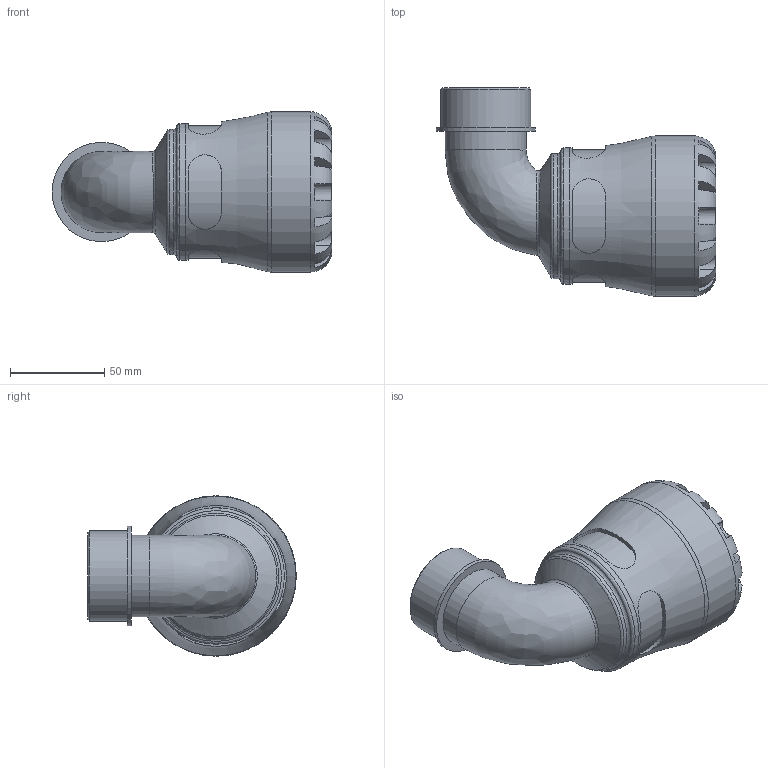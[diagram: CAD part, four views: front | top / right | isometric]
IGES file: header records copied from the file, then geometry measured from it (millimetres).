
Global section: file name: 108500050015_198500050015.ipt; native system: Autodesk Inventor 2015; preprocessor: unknown; author: KIM; date: 20190127.091528; units: millimetre
Bounding box: 148.29 x 110.5 x 85 mm (x, y, z)
Volume: 314454.4 mm3; surface area: 66443.5 mm2
Topology: 1 solids, 1 shells, 110 faces, 278 edges, 176 vertices
Faces by surface type: plane 61, revolution 26, cylinder 18, bspline 4, cone 1
Full cylindrical faces by diameter (mm): 43.023 x1, 47.803 x1, 52.583 x1, 66.3 x1, 72.25 x1, 85 x1
